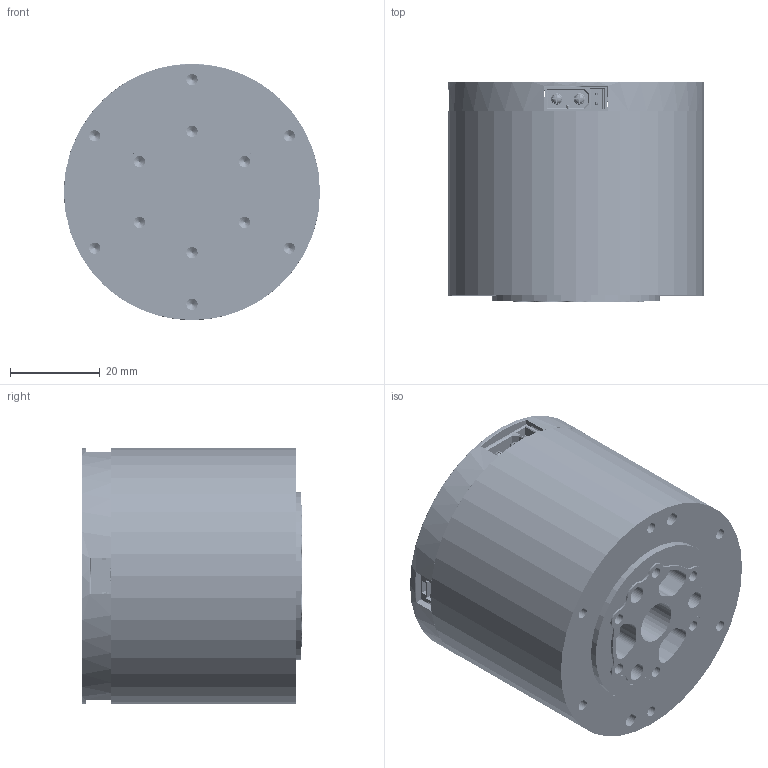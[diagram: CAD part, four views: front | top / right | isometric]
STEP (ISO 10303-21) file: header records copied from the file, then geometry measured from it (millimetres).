
FILE_DESCRIPTION((''),'2;1');
FILE_NAME('4310_-RAU_3505_3D-0001','2025-07-18T11:25:19',('rw'),(''),'CREO PARAMETRIC BY PTC INC, 2020053','CREO PARAMETRIC BY PTC INC, 2020053','');
FILE_SCHEMA(('CONFIG_CONTROL_DESIGN'));
Length unit declared in the file: millimetre
Products named in the file (5): 4310_-RAU_3505_3D0001; 4310__VER_B0001; G43_V1_1_220606A; 4310_-RAU_3505_3D_0001; 4310_-RAU_3505_3D-0001
Assembly tree (4 placements, depth 3):
  4310_-RAU_3505_3D-0001
    4310_-RAU_3505_3D_0001
      4310_-RAU_3505_3D0001
      4310__VER_B0001
      G43_V1_1_220606A
Bounding box: 57 x 49.05 x 57 mm (x, y, z)
Volume: 109857.4 mm3; surface area: 30179.1 mm2
Topology: 2 solids, 707 shells, 14486 faces, 37737 edges, 24648 vertices
Faces by surface type: plane 9297, extrusion 2287, cylinder 2201, sphere 518, cone 107, torus 32, bspline 28, revolution 16
Entity records: 535235 total; most frequent: CARTESIAN_POINT 190858, ORIENTED_EDGE 73378, DIRECTION 63160, EDGE_CURVE 37230, VECTOR 28906, LINE 26619, VERTEX_POINT 24648, AXIS2_PLACEMENT_3D 17119
